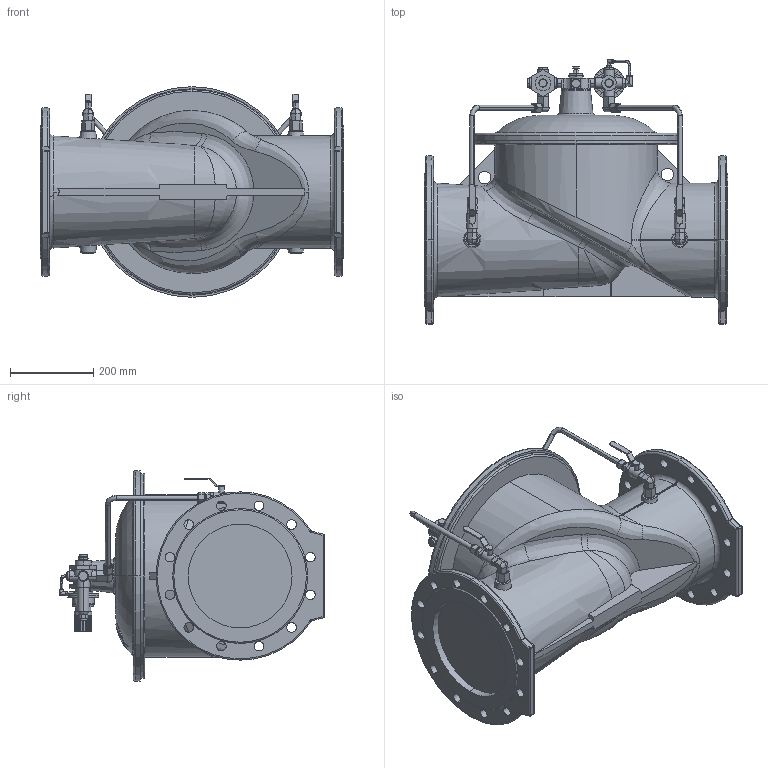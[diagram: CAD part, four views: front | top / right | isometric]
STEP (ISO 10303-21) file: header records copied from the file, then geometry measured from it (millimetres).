
FILE_DESCRIPTION (( 'STEP AP203' ), '1' );
FILE_NAME ('O_859_00_DN250_0XXXX00_REV01.step', '2020-11-17T12:01:41', ( '' ), ( '' ), 'SwSTEP 2.0', 'SolidWorks 2019', '' );
FILE_SCHEMA (( 'CONFIG_CONTROL_DESIGN' ));
Products named in the file (1): O_859_00_DN250_0XXXX00_REV01
Bounding box: 730 x 636.83 x 507 mm (x, y, z)
Volume: 66265826.9 mm3; surface area: 1707569.4 mm2
Topology: 1 solids, 1 shells, 1046 faces, 2624 edges, 1651 vertices
Faces by surface type: plane 535, cylinder 346, cone 68, torus 59, bspline 34, sphere 4
Entity records: 38831 total; most frequent: CARTESIAN_POINT 13865, ORIENTED_EDGE 5232, DIRECTION 5160, EDGE_CURVE 2616, AXIS2_PLACEMENT_3D 1921, VERTEX_POINT 1651, VECTOR 1318, LINE 1318
